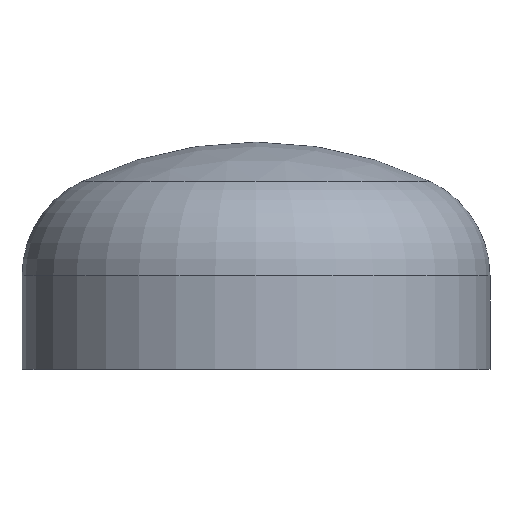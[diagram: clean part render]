
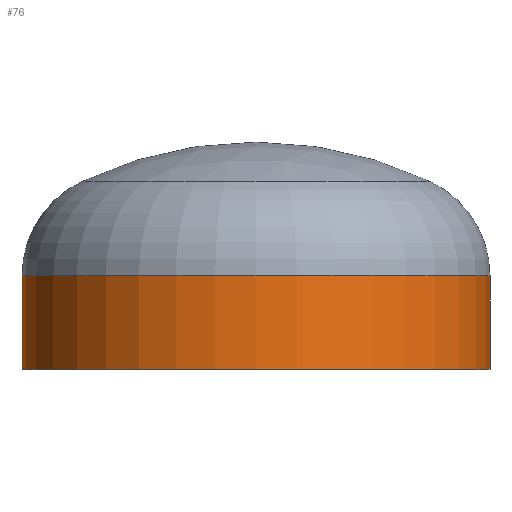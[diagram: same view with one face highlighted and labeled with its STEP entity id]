
A CAD part, top view. The second image highlights one B-rep face of the part: STEP entity #76.
In plain terms, the highlighted cylindrical face has radius 350 mm (diameter 700 mm), a partial arc.
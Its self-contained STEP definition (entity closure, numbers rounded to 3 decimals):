
#14 = VERTEX_POINT ( 'NONE', #290 ) ;
#20 = ORIENTED_EDGE ( 'NONE', *, *, #392, .T. ) ;
#29 = VERTEX_POINT ( 'NONE', #258 ) ;
#35 = EDGE_LOOP ( 'NONE', ( #20, #94, #97, #57 ) ) ;
#57 = ORIENTED_EDGE ( 'NONE', *, *, #370, .F. ) ;
#76 = ADVANCED_FACE ( 'NONE', ( #151 ), #220, .T. ) ;
#94 = ORIENTED_EDGE ( 'NONE', *, *, #410, .T. ) ;
#97 = ORIENTED_EDGE ( 'NONE', *, *, #411, .F. ) ;
#99 = VERTEX_POINT ( 'NONE', #325 ) ;
#111 = CARTESIAN_POINT ( 'NONE',  ( 350., 140., 0. ) ) ;
#140 = CARTESIAN_POINT ( 'NONE',  ( 0., 0., 0. ) ) ;
#145 = DIRECTION ( 'NONE',  ( 0., -1., 0. ) ) ;
#151 = FACE_OUTER_BOUND ( 'NONE', #35, .T. ) ;
#153 = AXIS2_PLACEMENT_3D ( 'NONE', #239, #368, #235 ) ;
#154 = LINE ( 'NONE', #164, #347 ) ;
#164 = CARTESIAN_POINT ( 'NONE',  ( 350., 0., 0. ) ) ;
#186 = DIRECTION ( 'NONE',  ( 1., 0., 0. ) ) ;
#194 = AXIS2_PLACEMENT_3D ( 'NONE', #379, #240, #398 ) ;
#212 = AXIS2_PLACEMENT_3D ( 'NONE', #140, #145, #186 ) ;
#216 = CIRCLE ( 'NONE', #194, 350. ) ;
#220 = CYLINDRICAL_SURFACE ( 'NONE', #153, 350. ) ;
#235 = DIRECTION ( 'NONE',  ( 1., 0., 0. ) ) ;
#239 = CARTESIAN_POINT ( 'NONE',  ( 0., 0., 0. ) ) ;
#240 = DIRECTION ( 'NONE',  ( 0., -1., 0. ) ) ;
#258 = CARTESIAN_POINT ( 'NONE',  ( -350., 0., 0. ) ) ;
#267 = CARTESIAN_POINT ( 'NONE',  ( -350., 0., 0. ) ) ;
#277 = VECTOR ( 'NONE', #310, 1000. ) ;
#290 = CARTESIAN_POINT ( 'NONE',  ( -350., 140., 0. ) ) ;
#292 = VERTEX_POINT ( 'NONE', #111 ) ;
#310 = DIRECTION ( 'NONE',  ( 0., -1., 0. ) ) ;
#325 = CARTESIAN_POINT ( 'NONE',  ( 350., 0., 0. ) ) ;
#332 = CIRCLE ( 'NONE', #212, 350. ) ;
#347 = VECTOR ( 'NONE', #351, 1000. ) ;
#351 = DIRECTION ( 'NONE',  ( 0., -1., 0. ) ) ;
#368 = DIRECTION ( 'NONE',  ( 0., -1., 0. ) ) ;
#370 = EDGE_CURVE ( 'NONE', #292, #99, #154, .T. ) ;
#379 = CARTESIAN_POINT ( 'NONE',  ( 0., 140., 0. ) ) ;
#390 = LINE ( 'NONE', #267, #277 ) ;
#392 = EDGE_CURVE ( 'NONE', #292, #14, #216, .T. ) ;
#398 = DIRECTION ( 'NONE',  ( 1., 0., 0. ) ) ;
#410 = EDGE_CURVE ( 'NONE', #14, #29, #390, .T. ) ;
#411 = EDGE_CURVE ( 'NONE', #99, #29, #332, .T. ) ;
